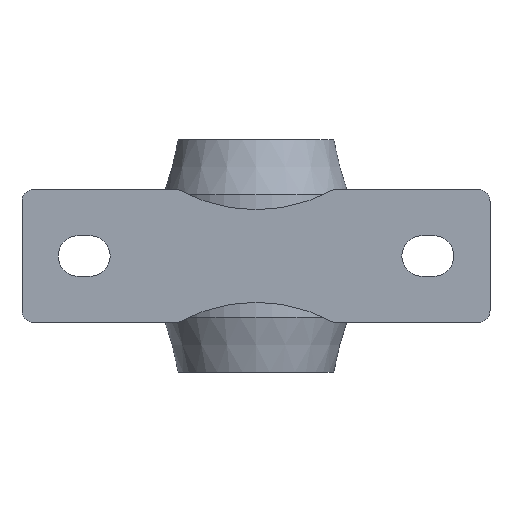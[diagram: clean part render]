
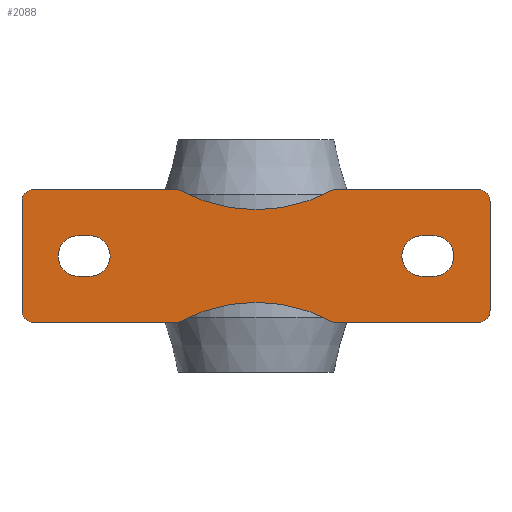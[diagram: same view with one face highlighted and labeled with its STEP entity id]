
A CAD part, front view. The second image highlights one B-rep face of the part: STEP entity #2088.
In plain terms, the highlighted planar face has unit normal (0, -1, 0).
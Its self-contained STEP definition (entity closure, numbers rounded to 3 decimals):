
#97=FACE_BOUND('',#302,.T.);
#98=FACE_BOUND('',#303,.T.);
#122=PLANE('',#2317);
#182=FACE_OUTER_BOUND('',#301,.T.);
#301=EDGE_LOOP('',(#1360,#1361,#1362,#1363,#1364,#1365,#1366,#1367,#1368,
#1369,#1370,#1371));
#302=EDGE_LOOP('',(#1372,#1373,#1374,#1375));
#303=EDGE_LOOP('',(#1376,#1377,#1378,#1379));
#479=LINE('',#3224,#608);
#480=LINE('',#3228,#609);
#481=LINE('',#3232,#610);
#482=LINE('',#3236,#611);
#483=LINE('',#3240,#612);
#484=LINE('',#3243,#613);
#485=LINE('',#3248,#614);
#486=LINE('',#3251,#615);
#487=LINE('',#3256,#616);
#488=LINE('',#3259,#617);
#608=VECTOR('',#2571,10.);
#609=VECTOR('',#2574,10.);
#610=VECTOR('',#2577,10.);
#611=VECTOR('',#2580,10.);
#612=VECTOR('',#2583,10.);
#613=VECTOR('',#2586,10.);
#614=VECTOR('',#2589,10.);
#615=VECTOR('',#2592,10.);
#616=VECTOR('',#2595,10.);
#617=VECTOR('',#2598,10.);
#738=CIRCLE('',#2318,4.);
#739=CIRCLE('',#2319,55.);
#740=CIRCLE('',#2320,4.);
#741=CIRCLE('',#2321,4.);
#742=CIRCLE('',#2322,55.);
#743=CIRCLE('',#2323,4.);
#744=CIRCLE('',#2324,7.);
#745=CIRCLE('',#2325,7.);
#746=CIRCLE('',#2326,7.);
#747=CIRCLE('',#2327,7.);
#850=VERTEX_POINT('',#3220);
#851=VERTEX_POINT('',#3221);
#852=VERTEX_POINT('',#3223);
#853=VERTEX_POINT('',#3225);
#854=VERTEX_POINT('',#3227);
#855=VERTEX_POINT('',#3229);
#856=VERTEX_POINT('',#3231);
#857=VERTEX_POINT('',#3233);
#858=VERTEX_POINT('',#3235);
#859=VERTEX_POINT('',#3237);
#860=VERTEX_POINT('',#3239);
#861=VERTEX_POINT('',#3241);
#862=VERTEX_POINT('',#3244);
#863=VERTEX_POINT('',#3245);
#864=VERTEX_POINT('',#3247);
#865=VERTEX_POINT('',#3249);
#866=VERTEX_POINT('',#3252);
#867=VERTEX_POINT('',#3253);
#868=VERTEX_POINT('',#3255);
#869=VERTEX_POINT('',#3257);
#1056=EDGE_CURVE('',#850,#851,#738,.T.);
#1057=EDGE_CURVE('',#850,#852,#479,.T.);
#1058=EDGE_CURVE('',#852,#853,#739,.T.);
#1059=EDGE_CURVE('',#853,#854,#480,.T.);
#1060=EDGE_CURVE('',#855,#854,#740,.T.);
#1061=EDGE_CURVE('',#855,#856,#481,.T.);
#1062=EDGE_CURVE('',#857,#856,#741,.T.);
#1063=EDGE_CURVE('',#858,#857,#482,.T.);
#1064=EDGE_CURVE('',#858,#859,#742,.T.);
#1065=EDGE_CURVE('',#860,#859,#483,.T.);
#1066=EDGE_CURVE('',#861,#860,#743,.T.);
#1067=EDGE_CURVE('',#861,#851,#484,.T.);
#1068=EDGE_CURVE('',#862,#863,#744,.T.);
#1069=EDGE_CURVE('',#863,#864,#485,.T.);
#1070=EDGE_CURVE('',#864,#865,#745,.T.);
#1071=EDGE_CURVE('',#865,#862,#486,.T.);
#1072=EDGE_CURVE('',#866,#867,#746,.T.);
#1073=EDGE_CURVE('',#867,#868,#487,.T.);
#1074=EDGE_CURVE('',#868,#869,#747,.T.);
#1075=EDGE_CURVE('',#869,#866,#488,.T.);
#1360=ORIENTED_EDGE('',*,*,#1056,.F.);
#1361=ORIENTED_EDGE('',*,*,#1057,.T.);
#1362=ORIENTED_EDGE('',*,*,#1058,.T.);
#1363=ORIENTED_EDGE('',*,*,#1059,.T.);
#1364=ORIENTED_EDGE('',*,*,#1060,.F.);
#1365=ORIENTED_EDGE('',*,*,#1061,.T.);
#1366=ORIENTED_EDGE('',*,*,#1062,.F.);
#1367=ORIENTED_EDGE('',*,*,#1063,.F.);
#1368=ORIENTED_EDGE('',*,*,#1064,.T.);
#1369=ORIENTED_EDGE('',*,*,#1065,.F.);
#1370=ORIENTED_EDGE('',*,*,#1066,.F.);
#1371=ORIENTED_EDGE('',*,*,#1067,.T.);
#1372=ORIENTED_EDGE('',*,*,#1068,.T.);
#1373=ORIENTED_EDGE('',*,*,#1069,.T.);
#1374=ORIENTED_EDGE('',*,*,#1070,.T.);
#1375=ORIENTED_EDGE('',*,*,#1071,.T.);
#1376=ORIENTED_EDGE('',*,*,#1072,.T.);
#1377=ORIENTED_EDGE('',*,*,#1073,.T.);
#1378=ORIENTED_EDGE('',*,*,#1074,.T.);
#1379=ORIENTED_EDGE('',*,*,#1075,.T.);
#2088=ADVANCED_FACE('',(#182,#97,#98),#122,.F.);
#2317=AXIS2_PLACEMENT_3D('',#3219,#2567,#2568);
#2318=AXIS2_PLACEMENT_3D('',#3222,#2569,#2570);
#2319=AXIS2_PLACEMENT_3D('',#3226,#2572,#2573);
#2320=AXIS2_PLACEMENT_3D('',#3230,#2575,#2576);
#2321=AXIS2_PLACEMENT_3D('',#3234,#2578,#2579);
#2322=AXIS2_PLACEMENT_3D('',#3238,#2581,#2582);
#2323=AXIS2_PLACEMENT_3D('',#3242,#2584,#2585);
#2324=AXIS2_PLACEMENT_3D('',#3246,#2587,#2588);
#2325=AXIS2_PLACEMENT_3D('',#3250,#2590,#2591);
#2326=AXIS2_PLACEMENT_3D('',#3254,#2593,#2594);
#2327=AXIS2_PLACEMENT_3D('',#3258,#2596,#2597);
#2567=DIRECTION('center_axis',(0.,1.,0.));
#2568=DIRECTION('ref_axis',(0.,0.,1.));
#2569=DIRECTION('center_axis',(0.,1.,0.));
#2570=DIRECTION('ref_axis',(-0.707,0.,-0.707));
#2571=DIRECTION('',(1.,0.,0.));
#2572=DIRECTION('center_axis',(0.,1.,0.));
#2573=DIRECTION('ref_axis',(1.,0.,0.));
#2574=DIRECTION('',(1.,0.,0.));
#2575=DIRECTION('center_axis',(0.,1.,0.));
#2576=DIRECTION('ref_axis',(0.707,0.,-0.707));
#2577=DIRECTION('',(0.,0.,1.));
#2578=DIRECTION('center_axis',(0.,1.,0.));
#2579=DIRECTION('ref_axis',(0.707,0.,0.707));
#2580=DIRECTION('',(1.,0.,0.));
#2581=DIRECTION('center_axis',(0.,1.,0.));
#2582=DIRECTION('ref_axis',(1.,0.,0.));
#2583=DIRECTION('',(1.,0.,0.));
#2584=DIRECTION('center_axis',(0.,1.,0.));
#2585=DIRECTION('ref_axis',(-0.707,0.,0.707));
#2586=DIRECTION('',(0.,0.,-1.));
#2587=DIRECTION('center_axis',(0.,1.,0.));
#2588=DIRECTION('ref_axis',(0.,0.,1.));
#2589=DIRECTION('',(1.,0.,0.));
#2590=DIRECTION('center_axis',(0.,1.,0.));
#2591=DIRECTION('ref_axis',(0.,0.,-1.));
#2592=DIRECTION('',(-1.,0.,0.));
#2593=DIRECTION('center_axis',(0.,1.,0.));
#2594=DIRECTION('ref_axis',(0.,0.,1.));
#2595=DIRECTION('',(-1.,0.,0.));
#2596=DIRECTION('center_axis',(0.,1.,0.));
#2597=DIRECTION('ref_axis',(0.,0.,-1.));
#2598=DIRECTION('',(1.,0.,0.));
#3219=CARTESIAN_POINT('Origin',(-40.1,-42.9,0.));
#3220=CARTESIAN_POINT('',(-77.,-42.9,-23.));
#3221=CARTESIAN_POINT('',(-81.,-42.9,-19.));
#3222=CARTESIAN_POINT('Origin',(-77.,-42.9,-19.));
#3223=CARTESIAN_POINT('',(-26.851,-42.9,-23.));
#3224=CARTESIAN_POINT('',(-81.,-42.9,-23.));
#3225=CARTESIAN_POINT('',(26.851,-42.9,-23.));
#3226=CARTESIAN_POINT('Origin',(0.,-42.9,-71.));
#3227=CARTESIAN_POINT('',(77.,-42.9,-23.));
#3228=CARTESIAN_POINT('',(-81.,-42.9,-23.));
#3229=CARTESIAN_POINT('',(81.,-42.9,-19.));
#3230=CARTESIAN_POINT('Origin',(77.,-42.9,-19.));
#3231=CARTESIAN_POINT('',(81.,-42.9,19.));
#3232=CARTESIAN_POINT('',(81.,-42.9,0.));
#3233=CARTESIAN_POINT('',(77.,-42.9,23.));
#3234=CARTESIAN_POINT('Origin',(77.,-42.9,19.));
#3235=CARTESIAN_POINT('',(26.851,-42.9,23.));
#3236=CARTESIAN_POINT('',(-10.,-42.9,23.));
#3237=CARTESIAN_POINT('',(-26.851,-42.9,23.));
#3238=CARTESIAN_POINT('Origin',(0.,-42.9,71.));
#3239=CARTESIAN_POINT('',(-77.,-42.9,23.));
#3240=CARTESIAN_POINT('',(-10.,-42.9,23.));
#3241=CARTESIAN_POINT('',(-81.,-42.9,19.));
#3242=CARTESIAN_POINT('Origin',(-77.,-42.9,19.));
#3243=CARTESIAN_POINT('',(-81.,-42.9,0.));
#3244=CARTESIAN_POINT('',(57.5,-42.9,-7.));
#3245=CARTESIAN_POINT('',(57.5,-42.9,7.));
#3246=CARTESIAN_POINT('Origin',(57.5,-42.9,0.));
#3247=CARTESIAN_POINT('',(61.5,-42.9,7.));
#3248=CARTESIAN_POINT('',(10.7,-42.9,7.));
#3249=CARTESIAN_POINT('',(61.5,-42.9,-7.));
#3250=CARTESIAN_POINT('Origin',(61.5,-42.9,0.));
#3251=CARTESIAN_POINT('',(8.7,-42.9,-7.));
#3252=CARTESIAN_POINT('',(-57.5,-42.9,7.));
#3253=CARTESIAN_POINT('',(-57.5,-42.9,-7.));
#3254=CARTESIAN_POINT('Origin',(-57.5,-42.9,0.));
#3255=CARTESIAN_POINT('',(-61.5,-42.9,-7.));
#3256=CARTESIAN_POINT('',(-50.8,-42.9,-7.));
#3257=CARTESIAN_POINT('',(-61.5,-42.9,7.));
#3258=CARTESIAN_POINT('Origin',(-61.5,-42.9,0.));
#3259=CARTESIAN_POINT('',(-48.8,-42.9,7.));
